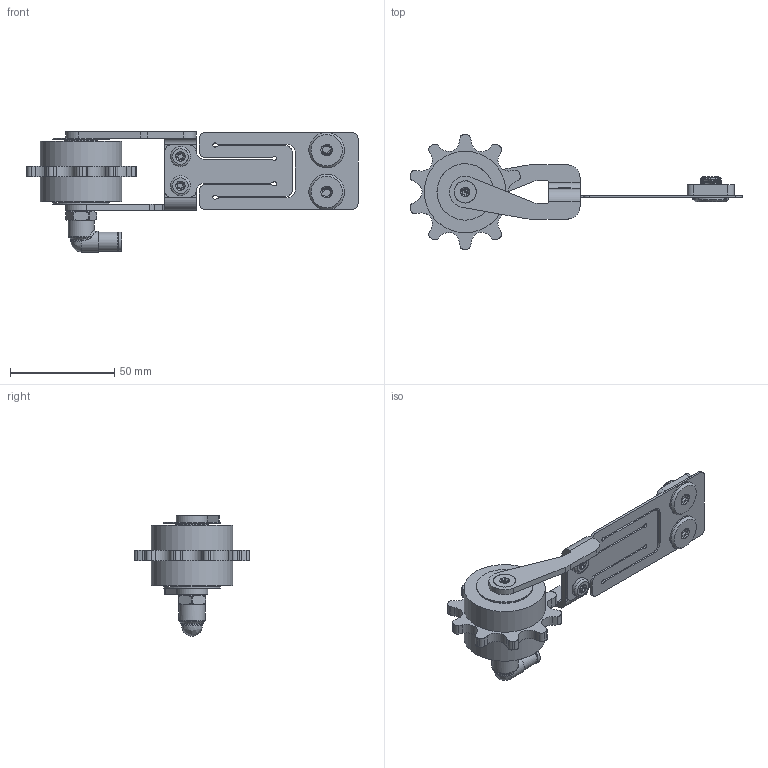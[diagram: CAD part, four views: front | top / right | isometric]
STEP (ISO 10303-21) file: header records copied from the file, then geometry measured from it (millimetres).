
FILE_DESCRIPTION (( 'STEP AP214' ), '1' );
FILE_NAME ('012_06_10B1_C.STEP', '2026-01-20T13:26:03', ( '' ), ( '' ), 'SwSTEP 2.0', 'SolidWorks 2022', '' );
FILE_SCHEMA (( 'AUTOMOTIVE_DESIGN' ));
Length unit declared in the file: millimetre
Products named in the file (10): 012_06E01_10_Schraube_M5; Senkkopfschraube_M5_ISR; 012_06_10B1_C; 012E20_070_Federblech; 012_06_12A_DMU_1; 9911_0503_0440_Stckverschr_wkl; 012_06_10B1_Kettenschmierritzel 10 B-1; 012_10_05_Gewindescheibe_M10; 012_06E01_10_Schraube_M10; Montagespange_30_b
Assembly tree (11 placements, depth 2):
  012_06_10B1_C
    Montagespange_30_b
    012E20_070_Federblech
    012_10_05_Gewindescheibe_M10
    012_06E01_10_Schraube_M10  x2
    9911_0503_0440_Stckverschr_wkl
    012_06_12A_DMU_1
    012_06E01_10_Schraube_M5  x2
    Senkkopfschraube_M5_ISR
    012_06_10B1_Kettenschmierritzel 10 B-1
Bounding box: 158.91 x 55 x 57.6 mm (x, y, z)
Volume: 12217.7 mm3; surface area: 29685.9 mm2
Topology: 6 solids, 40 shells, 512 faces, 1634 edges, 1173 vertices
Faces by surface type: cylinder 273, plane 134, cone 72, bspline 33
Full cylindrical faces by diameter (mm): 4 x3, 4.2 x3, 4.3 x1, 4.917 x1, 5 x9, 5.1 x3, 8.1 x1, 8.4 x2, 8.511 x1, 9 x1, 9.2 x1, 9.5 x2, 10 x4, 10.1 x2, 12 x3, 12.1 x2, 12.5 x1, 12.9 x1, 16 x3, 17 x2, 27 x2, 39 x2
Entity records: 42455 total; most frequent: CARTESIAN_POINT 26889, ORIENTED_EDGE 2241, DIRECTION 2171, EDGE_CURVE 1307, VERTEX_POINT 1005, AXIS2_PLACEMENT_3D 835, EDGE_LOOP 584, VECTOR 501
